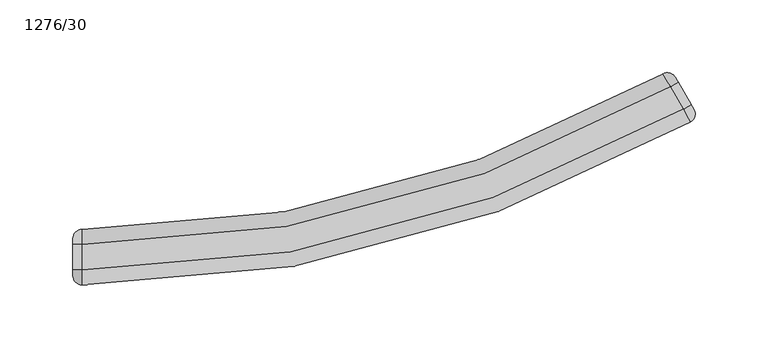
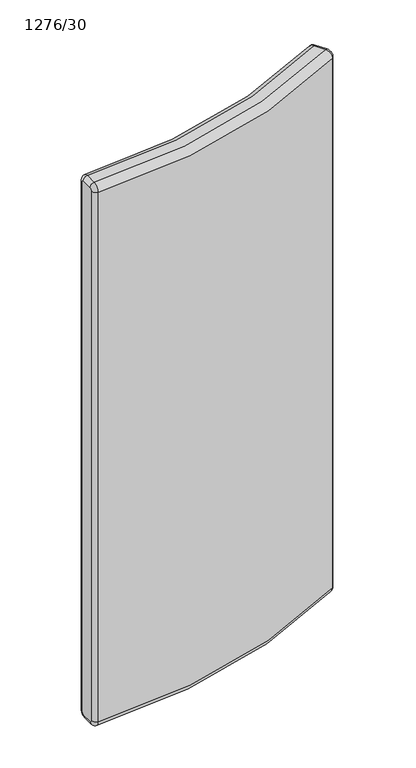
"""IFC4 building model written with IfcOpenShell, lengths in millimetres: furniture geometry, Laguna-Panel-Curve_Outside-ERG : 1276/30."""

from ifc_helpers import new_model, si_unit, point, frame, origin, place, context, project, spatial, polyline, circle_curve, ellipse_curve, trimmed, source, transform, mapped, element, save
from ifc_brep_helpers import plane_surface, cylinder_surface, revolved_surface, advanced_brep


def furniture_1276_30_48e96566(model_context):
    return source(origin(), model_context, "Body", "AdvancedBrep", [
        advanced_brep(
        [(-4700.4237656, 996.8738467, 1056.64), (-4283.3486324, 1108.6520691, 1056.64), (-4288.4295487, 1117.4503581, 1066.8), (-4700.4237656, 1007.0338467, 1066.8), (-4700.4237656, 996.8738467, 213.3600167), (-4283.3486324, 1108.6520691, 213.36), (-4700.4237656, 1007.0338467, 203.2), (-4288.4295487, 1117.4503581, 203.2), (-4700.4237656, 1024.8138302, 203.2), (-4297.3211522, 1132.8473638, 203.2), (-4700.4237656, 1034.9738467, 213.36), (-4302.4020685, 1141.6456528, 213.36), (-4700.4237656, 1034.9738467, 1056.6399836), (-4302.4020685, 1141.6456528, 1056.64), (-4700.4237656, 1024.8138467, 1066.8), (-4297.3211522, 1132.8473638, 1066.8), (-4706.7737656, 1028.6238467, 213.36), (-4706.7737656, 1024.8138467, 209.55), (-4706.7737656, 1007.0338467, 209.55), (-4706.7737656, 1003.2238467, 213.36), (-4706.7737656, 1003.2238467, 1056.64), (-4706.7737656, 1007.0338467, 1060.45), (-4706.7737656, 1024.8138467, 1060.45), (-4706.7737656, 1028.6238467, 1056.64), (-4293.7275652, 1139.3222949, 1056.64), (-4291.8222216, 1136.0229365, 1060.45), (-4282.930618, 1120.6259308, 1060.45), (-4281.0252744, 1117.3265724, 1056.64), (-4281.0252744, 1117.3265724, 213.36), (-4282.930618, 1120.6259308, 209.55), (-4291.8222216, 1136.0229365, 209.55), (-4293.7275652, 1139.3222949, 213.36)],
        [
            (0, 1, circle_curve(frame((-4700.4237656, 1830.8736805, 1056.64), z_axis=(0.0, 0.0, 1.0), x_axis=(0.5000901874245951, -0.8659733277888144, 0.0)), 833.9998338)),
            (1, 2, circle_curve(frame((-4288.4295487, 1117.4503581, 1056.64), z_axis=(-0.8659733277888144, -0.5000901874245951, 0.0), x_axis=(0.5000901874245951, -0.8659733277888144, 0.0)), 10.16)),
            (2, 3, circle_curve(frame((-4700.4237656, 1830.8736805, 1066.8), z_axis=(0.0, 0.0, -1.0), x_axis=(0.5000901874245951, -0.8659733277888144, 0.0)), 823.8398338)),
            (3, 0, circle_curve(frame((-4700.4237656, 1007.0338467, 1056.64), z_axis=(1.0, 0.0, 0.0), x_axis=(0.0, -1.0, 0.0)), 10.16)),
            (0, 4),
            (4, 5, circle_curve(frame((-4700.4237656, 1830.8736805, 213.36), z_axis=(0.0, 0.0, 1.0), x_axis=(0.5000901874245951, -0.8659733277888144, 0.0)), 833.9998338)),
            (5, 1),
            (4, 6, circle_curve(frame((-4700.4237656, 1007.0338467, 213.36), z_axis=(1.0, 0.0, 0.0), x_axis=(0.0, -1.0, 0.0)), 10.16)),
            (6, 7, circle_curve(frame((-4700.4237656, 1830.8736805, 203.2), z_axis=(0.0, 0.0, 1.0), x_axis=(0.5000901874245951, -0.8659733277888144, 0.0)), 823.8398338)),
            (7, 5, circle_curve(frame((-4288.4295487, 1117.4503581, 213.36), z_axis=(-0.8659733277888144, -0.5000901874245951, 0.0), x_axis=(0.5000901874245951, -0.8659733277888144, 0.0)), 10.16)),
            (6, 8),
            (8, 9, circle_curve(frame((-4700.4237656, 1830.8736805, 203.2), z_axis=(0.0, 0.0, 1.0), x_axis=(0.5000901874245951, -0.8659733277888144, 0.0)), 806.0598338)),
            (9, 7),
            (8, 10, circle_curve(frame((-4700.4237656, 1024.8138467, 213.36), z_axis=(1.0, 0.0, 0.0), x_axis=(0.0, -1.0, 0.0)), 10.16)),
            (10, 11, circle_curve(frame((-4700.4237656, 1830.8736805, 213.36), z_axis=(0.0, 0.0, 1.0), x_axis=(0.5000901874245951, -0.8659733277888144, 0.0)), 795.8998338)),
            (11, 9, circle_curve(frame((-4297.3211522, 1132.8473638, 213.36), z_axis=(-0.8659733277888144, -0.5000901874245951, 0.0), x_axis=(0.5000901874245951, -0.8659733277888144, 0.0)), 10.16)),
            (10, 12),
            (12, 13, circle_curve(frame((-4700.4237656, 1830.8736805, 1056.64), z_axis=(0.0, 0.0, 1.0), x_axis=(0.5000901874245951, -0.8659733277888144, 0.0)), 795.8998338)),
            (13, 11),
            (12, 14, circle_curve(frame((-4700.4237656, 1024.8138467, 1056.64), z_axis=(1.0, 0.0, 0.0), x_axis=(0.0, -1.0, 0.0)), 10.16)),
            (14, 15, circle_curve(frame((-4700.4237656, 1830.8736805, 1066.8), z_axis=(0.0, 0.0, 1.0), x_axis=(0.5000901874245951, -0.8659733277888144, 0.0)), 806.0598338)),
            (15, 13, circle_curve(frame((-4297.3211522, 1132.8473638, 1056.64), z_axis=(-0.8659733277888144, -0.5000901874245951, 0.0), x_axis=(0.5000901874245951, -0.8659733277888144, 0.0)), 10.16)),
            (2, 15),
            (14, 3),
            (16, 10, circle_curve(frame((-4700.4237656, 1028.6238467, 213.36), z_axis=(0.0, 0.0, -1.0), x_axis=(-1.0, 0.0, 0.0)), 6.35)),
            (8, 17, circle_curve(frame((-4700.4237656, 1024.8138467, 209.55), z_axis=(0.0, 1.0, 0.0), x_axis=(-1.0, 0.0, 0.0)), 6.35)),
            (17, 16, circle_curve(frame((-4706.7737656, 1024.8138467, 213.36), z_axis=(1.0, 0.0, 0.0), x_axis=(0.0, 1.0, 0.0)), 3.81)),
            (6, 18, circle_curve(frame((-4700.4237656, 1007.0338467, 209.55), z_axis=(0.0, 1.0, 0.0), x_axis=(-1.0, 0.0, 0.0)), 6.35)),
            (18, 17),
            (4, 19, circle_curve(frame((-4700.4237656, 1003.2238467, 213.36), z_axis=(0.0, 0.0, -1.0), x_axis=(-1.0, 0.0, 0.0)), 6.35)),
            (19, 18, circle_curve(frame((-4706.7737656, 1007.0338467, 213.36), z_axis=(1.0, 0.0, 0.0), x_axis=(0.0, 0.0, -1.0)), 3.81)),
            (0, 20, circle_curve(frame((-4700.4237656, 1003.2238467, 1056.64), z_axis=(0.0, 0.0, -1.0), x_axis=(-1.0, 0.0, 0.0)), 6.35)),
            (20, 19),
            (3, 21, circle_curve(frame((-4700.4237656, 1007.0338467, 1060.45), z_axis=(0.0, -1.0, 0.0), x_axis=(-1.0, 0.0, 0.0)), 6.35)),
            (21, 20, circle_curve(frame((-4706.7737656, 1007.0338467, 1056.64), z_axis=(1.0, 0.0, 0.0), x_axis=(0.0, -1.0, 0.0)), 3.81)),
            (14, 22, circle_curve(frame((-4700.4237656, 1024.8138467, 1060.45), z_axis=(0.0, -1.0, 0.0), x_axis=(-1.0, 0.0, 0.0)), 6.35)),
            (22, 21),
            (12, 23, circle_curve(frame((-4700.4237656, 1028.6238467, 1056.64), z_axis=(0.0, 0.0, 1.0), x_axis=(-1.0, 0.0, 0.0)), 6.35)),
            (23, 22, circle_curve(frame((-4706.7737656, 1024.8138467, 1056.64), z_axis=(1.0, 0.0, 0.0), x_axis=(0.0, 0.0, 1.0)), 3.81)),
            (16, 23),
            (24, 13, circle_curve(frame((-4299.2264958, 1136.1467222, 1056.64), z_axis=(0.0, 0.0, 1.0), x_axis=(0.5000901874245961, -0.8659733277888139, 0.0)), 6.35)),
            (15, 25, circle_curve(frame((-4297.3211522, 1132.8473638, 1060.45), z_axis=(-0.5000901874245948, 0.8659733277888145, 0.0), x_axis=(0.0, 0.0, -1.0)), 6.35)),
            (25, 24, circle_curve(frame((-4291.8222216, 1136.0229365, 1056.64), z_axis=(-0.8659733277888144, -0.5000901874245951, 0.0), x_axis=(-0.5000901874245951, 0.8659733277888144, 0.0)), 3.81)),
            (2, 26, circle_curve(frame((-4288.4295487, 1117.4503581, 1060.45), z_axis=(-0.5000901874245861, 0.8659733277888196, 0.0), x_axis=(0.0, 0.0, -1.0)), 6.35)),
            (26, 25),
            (1, 27, circle_curve(frame((-4286.5242051, 1114.1509997, 1056.64), z_axis=(0.0, 0.0, 1.0), x_axis=(-0.500090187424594, 0.865973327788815, 0.0)), 6.35)),
            (27, 26, circle_curve(frame((-4282.930618, 1120.6259308, 1056.64), z_axis=(-0.8659733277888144, -0.5000901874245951, 0.0), x_axis=(0.0, 0.0, 1.0)), 3.81)),
            (5, 28, circle_curve(frame((-4286.5242051, 1114.1509997, 213.36), z_axis=(0.0, 0.0, 1.0), x_axis=(-0.5000901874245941, 0.8659733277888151, 0.0)), 6.35)),
            (28, 27),
            (7, 29, circle_curve(frame((-4288.4295487, 1117.4503581, 209.55), z_axis=(0.5000901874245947, -0.8659733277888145, 0.0), x_axis=(0.0, 0.0, 0.9999999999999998)), 6.35)),
            (29, 28, circle_curve(frame((-4282.930618, 1120.6259308, 213.36), z_axis=(-0.8659733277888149, -0.5000901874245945, 0.0), x_axis=(0.5000901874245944, -0.8659733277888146, 0.0)), 3.81)),
            (9, 30, circle_curve(frame((-4297.3211522, 1132.8473638, 209.55), z_axis=(0.5000901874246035, -0.8659733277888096, 0.0), x_axis=(0.0, 0.0, 1.0)), 6.35)),
            (30, 29),
            (11, 31, circle_curve(frame((-4299.2264958, 1136.1467222, 213.36), z_axis=(0.0, 0.0, -1.0), x_axis=(0.5000901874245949, -0.8659733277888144, 0.0)), 6.35)),
            (31, 30, circle_curve(frame((-4291.8222216, 1136.0229365, 213.36), z_axis=(-0.8659733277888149, -0.5000901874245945, 0.0), x_axis=(0.0, 0.0, -1.0)), 3.81)),
            (24, 31),
        ],
        [
            revolved_surface(trimmed(ellipse_curve(frame((-4288.4295487, 1117.4503581, 1056.64), z_axis=(0.8659733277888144, 0.5000901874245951, 0.0), x_axis=(0.5000901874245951, -0.8659733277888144, 0.0)), 10.16, 10.16), [point((-4288.4295487, 1117.4503581, 1066.8))], [point((-4283.3486324, 1108.6520691, 1056.64))], True, "CARTESIAN"), (-4700.4237656, 1830.8736805, 0.0), (0.0, 0.0, -1.0)),
            cylinder_surface(frame((-4700.4237656, 1830.8736805, 0.0), z_axis=(0.0, 0.0, -1.0), x_axis=(0.5000901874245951, -0.8659733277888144, 0.0)), 833.9998338),
            revolved_surface(trimmed(ellipse_curve(frame((-4288.4295487, 1117.4503581, 213.36), z_axis=(0.8659733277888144, 0.5000901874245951, 0.0), x_axis=(0.5000901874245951, -0.8659733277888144, 0.0)), 10.16, 10.16), [point((-4283.3486324, 1108.6520691, 213.36))], [point((-4288.4295487, 1117.4503581, 203.2))], True, "CARTESIAN"), (-4700.4237656, 1830.8736805, 0.0), (0.0, 0.0, -1.0)),
            plane_surface(frame((-4700.4237656, 1830.8736805, 203.2), z_axis=(0.0, 0.0, -1.0), x_axis=(0.5000901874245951, -0.8659733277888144, 0.0))),
            revolved_surface(trimmed(ellipse_curve(frame((-4297.3211522, 1132.8473638, 213.36), z_axis=(0.8659733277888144, 0.5000901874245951, 0.0), x_axis=(0.5000901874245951, -0.8659733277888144, 0.0)), 10.16, 10.16), [point((-4297.3211522, 1132.8473638, 203.2))], [point((-4302.4020685, 1141.6456528, 213.36))], True, "CARTESIAN"), (-4700.4237656, 1830.8736805, 0.0), (0.0, 0.0, -1.0)),
            revolved_surface(polyline([(-4302.402068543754, 1141.6456528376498, 213.36), (-4302.402068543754, 1141.6456528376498, 1056.64)]), (-4700.4237656, 1830.8736805, 0.0), (0.0, 0.0, -1.0)),
            revolved_surface(trimmed(ellipse_curve(frame((-4297.3211522, 1132.8473638, 1056.64), z_axis=(0.8659733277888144, 0.5000901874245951, 0.0), x_axis=(0.5000901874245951, -0.8659733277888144, 0.0)), 10.16, 10.16), [point((-4302.4020685, 1141.6456528, 1056.64))], [point((-4297.3211522, 1132.8473638, 1066.8))], True, "CARTESIAN"), (-4700.4237656, 1830.8736805, 0.0), (0.0, 0.0, -1.0)),
            plane_surface(frame((-4700.4237656, 1830.8736805, 1066.8), z_axis=(0.0, 0.0, 1.0), x_axis=(0.5000901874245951, -0.8659733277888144, 0.0))),
            revolved_surface(trimmed(ellipse_curve(frame((-4700.4237656, 1028.6238467, 213.36), z_axis=(0.0, 0.0, 1.0), x_axis=(-1.0, 0.0, 0.0)), 6.35, 6.35), [point((-4700.4237656, 1034.9738467, 213.36))], [point((-4706.7737656, 1028.6238467, 213.36))], True, "CARTESIAN"), (-4700.4237656, 1024.8138467, 213.36), (-1.0, 0.0, 0.0)),
            cylinder_surface(frame((-4700.4237656, 1024.8138467, 209.55), z_axis=(0.0, 1.0, 0.0), x_axis=(-1.0, 0.0, 0.0)), 6.35),
            revolved_surface(trimmed(ellipse_curve(frame((-4700.4237656, 1007.0338467, 209.55), z_axis=(0.0, 1.0, 0.0), x_axis=(-1.0, 0.0, 0.0)), 6.35, 6.35), [point((-4700.4237656, 1007.0338467, 203.2))], [point((-4706.7737656, 1007.0338467, 209.55))], True, "CARTESIAN"), (-4700.4237656, 1007.0338467, 213.36), (-1.0, 0.0, 0.0)),
            cylinder_surface(frame((-4700.4237656, 1003.2238467, 213.36), z_axis=(0.0, 0.0, -1.0), x_axis=(-1.0, 0.0, 0.0)), 6.35),
            revolved_surface(trimmed(ellipse_curve(frame((-4700.4237656, 1003.2238467, 1056.64), z_axis=(0.0, 0.0, -1.0), x_axis=(-1.0, 0.0, 0.0)), 6.35, 6.35), [point((-4700.4237656, 996.8738467, 1056.64))], [point((-4706.7737656, 1003.2238467, 1056.64))], True, "CARTESIAN"), (-4700.4237656, 1007.0338467, 1056.64), (-1.0, 0.0, 0.0)),
            cylinder_surface(frame((-4700.4237656, 1007.0338467, 1060.45), z_axis=(0.0, -1.0, 0.0), x_axis=(-1.0, 0.0, 0.0)), 6.35),
            revolved_surface(trimmed(ellipse_curve(frame((-4700.4237656, 1024.8138467, 1060.45), z_axis=(0.0, -1.0, 0.0), x_axis=(-1.0, 0.0, 0.0)), 6.35, 6.35), [point((-4700.4237656, 1024.8138467, 1066.8))], [point((-4706.7737656, 1024.8138467, 1060.45))], True, "CARTESIAN"), (-4700.4237656, 1024.8138467, 1056.64), (-1.0, 0.0, 0.0)),
            cylinder_surface(frame((-4700.4237656, 1028.6238467, 1056.64), z_axis=(0.0, 0.0, 1.0), x_axis=(-1.0, 0.0, 0.0)), 6.35),
            plane_surface(frame((-4706.7737656, 1028.6238467, 213.36), z_axis=(-1.0, 0.0, 0.0), x_axis=(0.0, 0.0, -1.0))),
            revolved_surface(trimmed(ellipse_curve(frame((-4299.2264958, 1136.1467222, 1056.64), z_axis=(0.0, 0.0, -1.0), x_axis=(0.5000901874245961, -0.8659733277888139, 0.0)), 6.35, 6.35), [point((-4302.4020685, 1141.6456528, 1056.64))], [point((-4293.7275652, 1139.3222949, 1056.64))], True, "CARTESIAN"), (-4297.3211522, 1132.8473638, 1056.64), (0.8659733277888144, 0.5000901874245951, 0.0)),
            cylinder_surface(frame((-4297.3211522, 1132.8473638, 1060.45), z_axis=(-0.5000901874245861, 0.8659733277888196, 0.0), x_axis=(0.0, 0.0, -1.0)), 6.35),
            revolved_surface(trimmed(ellipse_curve(frame((-4288.4295487, 1117.4503581, 1060.45), z_axis=(-0.5000901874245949, 0.8659733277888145, 0.0), x_axis=(0.0, 0.0, -1.0)), 6.35, 6.35), [point((-4288.4295487, 1117.4503581, 1066.8))], [point((-4282.930618, 1120.6259308, 1060.45))], True, "CARTESIAN"), (-4288.4295487, 1117.4503581, 1056.64), (0.8659733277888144, 0.5000901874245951, 0.0)),
            cylinder_surface(frame((-4286.5242051, 1114.1509997, 1056.64), z_axis=(0.0, 0.0, 1.0000000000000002), x_axis=(-0.5000901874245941, 0.8659733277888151, 0.0)), 6.35),
            revolved_surface(trimmed(ellipse_curve(frame((-4286.5242051, 1114.1509997, 213.36), z_axis=(0.0, 0.0, 0.9999999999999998), x_axis=(-0.500090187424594, 0.865973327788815, 0.0)), 6.35, 6.35), [point((-4283.3486324, 1108.6520691, 213.36))], [point((-4281.0252744, 1117.3265724, 213.36))], True, "CARTESIAN"), (-4288.4295487, 1117.4503581, 213.36), (0.8659733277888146, 0.5000901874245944, 0.0)),
            cylinder_surface(frame((-4288.4295487, 1117.4503581, 209.55), z_axis=(0.5000901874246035, -0.8659733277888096, 0.0), x_axis=(0.0, 0.0, 1.0)), 6.35),
            revolved_surface(trimmed(ellipse_curve(frame((-4297.3211522, 1132.8473638, 209.55), z_axis=(0.5000901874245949, -0.8659733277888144, 0.0), x_axis=(0.0, 0.0, 1.0)), 6.35, 6.35), [point((-4297.3211522, 1132.8473638, 203.2))], [point((-4291.8222216, 1136.0229365, 209.55))], True, "CARTESIAN"), (-4297.3211522, 1132.8473638, 213.36), (0.8659733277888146, 0.5000901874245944, 0.0)),
            cylinder_surface(frame((-4299.2264958, 1136.1467222, 213.36), z_axis=(0.0, 0.0, -1.0), x_axis=(0.500090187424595, -0.8659733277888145, 0.0)), 6.35),
            plane_surface(frame((-4281.0252744, 1117.3265724, 213.36), z_axis=(0.8659733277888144, 0.5000901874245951, 0.0), x_axis=(0.0, 0.0, -1.0))),
        ],
        [
            (0, [[1, 2, 3, 4]]),
            (1, [[-1, 5, 6, 7]]),
            (2, [[-6, 8, 9, 10]]),
            (3, [[-9, 11, 12, 13]]),
            (4, [[-12, 14, 15, 16]]),
            (5, [[-15, 17, 18, 19]]),
            (6, [[-18, 20, 21, 22]]),
            (7, [[-3, 23, -21, 24]]),
            (8, [[25, -14, 26, 27]]),
            (9, [[-26, -11, 28, 29]]),
            (10, [[-28, -8, 30, 31]]),
            (11, [[-30, -5, 32, 33]]),
            (12, [[-32, -4, 34, 35]]),
            (13, [[-34, -24, 36, 37]]),
            (14, [[-36, -20, 38, 39]]),
            (15, [[-25, 40, -38, -17]]),
            (16, [[-27, -29, -31, -33, -35, -37, -39, -40]]),
            (17, [[41, -22, 42, 43]]),
            (18, [[-42, -23, 44, 45]]),
            (19, [[-44, -2, 46, 47]]),
            (20, [[-46, -7, 48, 49]]),
            (21, [[-48, -10, 50, 51]]),
            (22, [[-50, -13, 52, 53]]),
            (23, [[-52, -16, 54, 55]]),
            (24, [[-41, 56, -54, -19]]),
            (25, [[-43, -45, -47, -49, -51, -53, -55, -56]]),
        ],
    ),
    ])


if __name__ == "__main__":
    model = new_model("IFC4")
    model_context = context("Model", 3, world=origin())
    ifc_project = project(units=[si_unit("LENGTHUNIT", "METRE", prefix="MILLI")], contexts=[model_context])
    site = spatial("IfcSite", under=ifc_project)
    building = spatial("IfcBuilding", under=site)
    placement = place(None, origin())
    furniture_1276_30_shape = furniture_1276_30_48e96566(model_context)
    element("IfcFurniture", 1, ObjectType="Laguna-Panel-Curve_Outside-ERG : 1276/30", at=placement, inside=building, context=model_context, shape_type="MappedRepresentation", body=[
        mapped(furniture_1276_30_shape, transform((0.0, 0.0, 0.0), x_axis=(1.0, 0.0, 0.0), y_axis=(0.0, 1.0, 0.0), z_axis=(0.0, 0.0, 1.0))),
    ])
    save(model, "model.ifc")
